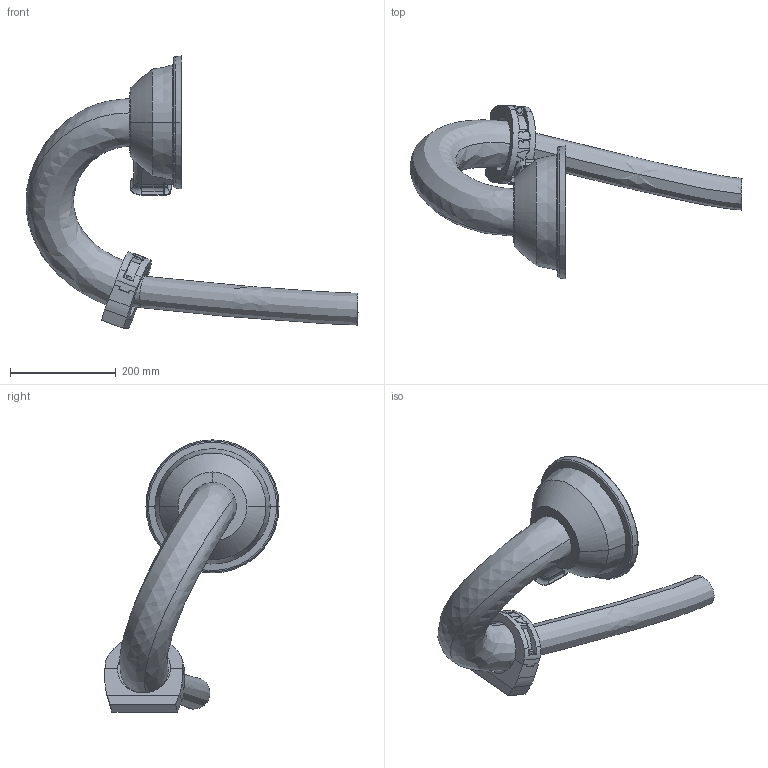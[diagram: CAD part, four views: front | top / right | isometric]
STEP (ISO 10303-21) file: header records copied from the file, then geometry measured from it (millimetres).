
FILE_DESCRIPTION (( 'STEP AP214' ), '1' );
FILE_NAME ('IRB5710-MH3_110kg-230_OC_01_LINK03b_CABLE.STEP', '2023-06-26T13:17:55', ( '' ), ( '' ), 'SwSTEP 2.0', 'SolidWorks 2022', '' );
FILE_SCHEMA (( 'AUTOMOTIVE_DESIGN' ));
Length unit declared in the file: millimetre
Products named in the file (1): IRB5710-MH3_110kg-230_OC_01_LINK03b_CABLE
Bounding box: 626.72 x 328.75 x 514.07 mm (x, y, z)
Volume: 7982322.9 mm3; surface area: 456570.8 mm2
Topology: 1 solids, 5 shells, 583 faces, 1508 edges, 930 vertices
Faces by surface type: plane 195, cylinder 156, bspline 149, cone 46, torus 31, sphere 6
Entity records: 25228 total; most frequent: CARTESIAN_POINT 12579, ORIENTED_EDGE 3000, DIRECTION 2140, EDGE_CURVE 1500, VERTEX_POINT 930, AXIS2_PLACEMENT_3D 792, EDGE_LOOP 598, ADVANCED_FACE 583
